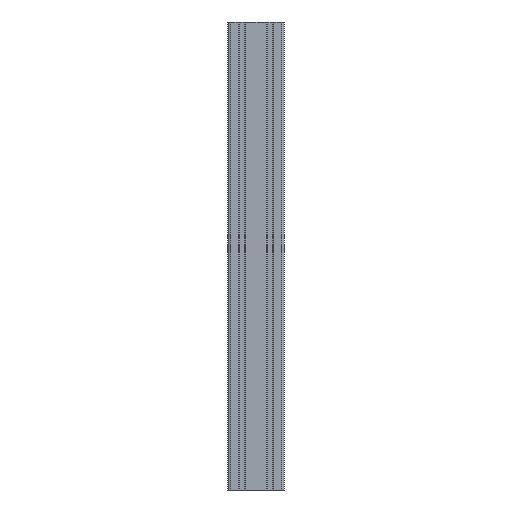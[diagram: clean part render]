
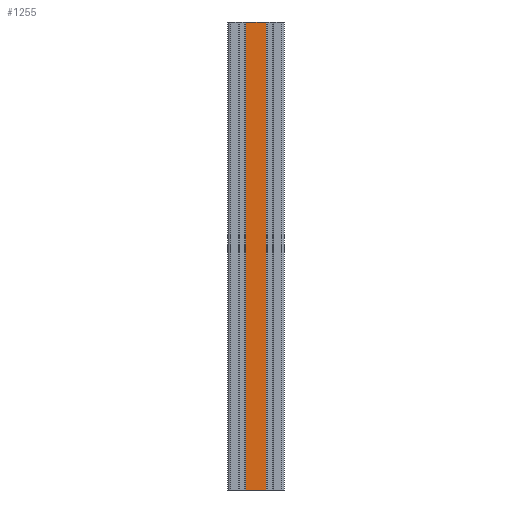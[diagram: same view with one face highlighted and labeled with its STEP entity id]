
A CAD part, front view. The second image highlights one B-rep face of the part: STEP entity #1255.
In plain terms, the highlighted planar face has unit normal (0, -1, 0).
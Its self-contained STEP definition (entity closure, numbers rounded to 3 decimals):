
#5 = VECTOR ( 'NONE', #322, 1000. ) ;
#298 = ORIENTED_EDGE ( 'NONE', *, *, #5238, .T. ) ;
#322 = DIRECTION ( 'NONE',  ( 0., 0., 1. ) ) ;
#486 = AXIS2_PLACEMENT_3D ( 'NONE', #2537, #6907, #3189 ) ;
#663 = CARTESIAN_POINT ( 'NONE',  ( 10.9, -15., -250. ) ) ;
#732 = VERTEX_POINT ( 'NONE', #1428 ) ;
#1147 = LINE ( 'NONE', #663, #7742 ) ;
#1255 = ADVANCED_FACE ( 'NONE', ( #7293 ), #6375, .T. ) ;
#1428 = CARTESIAN_POINT ( 'NONE',  ( -10.9, -15., -250. ) ) ;
#1745 = EDGE_CURVE ( 'NONE', #1795, #732, #6287, .T. ) ;
#1764 = DIRECTION ( 'NONE',  ( -1., 0., 0. ) ) ;
#1795 = VERTEX_POINT ( 'NONE', #6554 ) ;
#1932 = VERTEX_POINT ( 'NONE', #2971 ) ;
#2018 = LINE ( 'NONE', #2539, #3118 ) ;
#2141 = CARTESIAN_POINT ( 'NONE',  ( -10.9, -15., 250. ) ) ;
#2537 = CARTESIAN_POINT ( 'NONE',  ( -30., -15., -317.082 ) ) ;
#2539 = CARTESIAN_POINT ( 'NONE',  ( -30., -15., 250. ) ) ;
#2597 = DIRECTION ( 'NONE',  ( 1., 0., 0. ) ) ;
#2864 = EDGE_LOOP ( 'NONE', ( #4332, #298, #3811, #3662 ) ) ;
#2971 = CARTESIAN_POINT ( 'NONE',  ( 10.9, -15., 250. ) ) ;
#3118 = VECTOR ( 'NONE', #2597, 1000. ) ;
#3169 = LINE ( 'NONE', #5971, #5 ) ;
#3189 = DIRECTION ( 'NONE',  ( 1., 0., 0. ) ) ;
#3662 = ORIENTED_EDGE ( 'NONE', *, *, #7674, .F. ) ;
#3811 = ORIENTED_EDGE ( 'NONE', *, *, #6379, .F. ) ;
#4332 = ORIENTED_EDGE ( 'NONE', *, *, #1745, .F. ) ;
#5238 = EDGE_CURVE ( 'NONE', #1795, #1932, #1147, .T. ) ;
#5627 = CARTESIAN_POINT ( 'NONE',  ( -30., -15., -250. ) ) ;
#5971 = CARTESIAN_POINT ( 'NONE',  ( -10.9, -15., -250. ) ) ;
#6287 = LINE ( 'NONE', #5627, #7175 ) ;
#6367 = DIRECTION ( 'NONE',  ( 0., 0., 1. ) ) ;
#6375 = PLANE ( 'NONE',  #486 ) ;
#6379 = EDGE_CURVE ( 'NONE', #7734, #1932, #2018, .T. ) ;
#6554 = CARTESIAN_POINT ( 'NONE',  ( 10.9, -15., -250. ) ) ;
#6907 = DIRECTION ( 'NONE',  ( 0., -1., 0. ) ) ;
#7175 = VECTOR ( 'NONE', #1764, 1000. ) ;
#7293 = FACE_OUTER_BOUND ( 'NONE', #2864, .T. ) ;
#7674 = EDGE_CURVE ( 'NONE', #732, #7734, #3169, .T. ) ;
#7734 = VERTEX_POINT ( 'NONE', #2141 ) ;
#7742 = VECTOR ( 'NONE', #6367, 1000. ) ;
